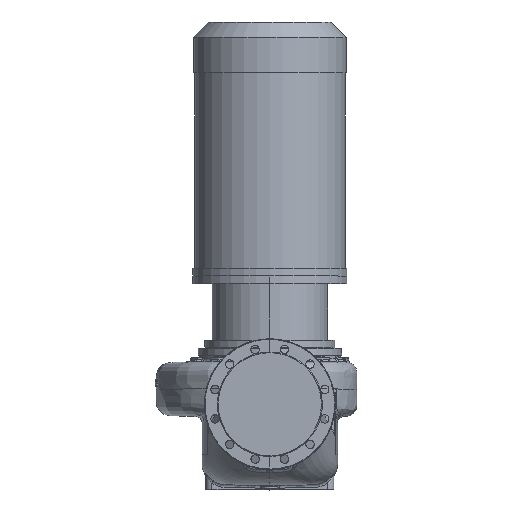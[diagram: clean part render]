
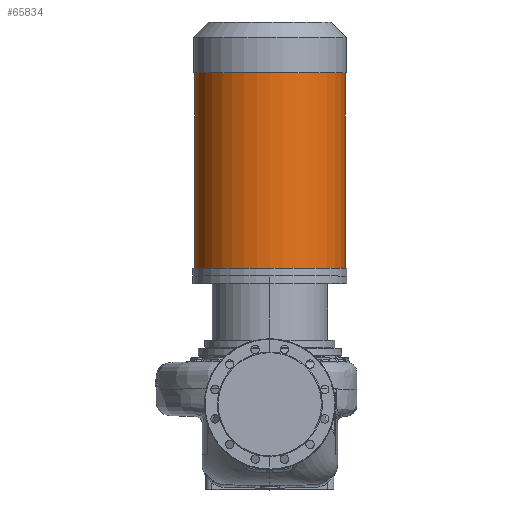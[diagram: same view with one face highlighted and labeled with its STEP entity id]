
A CAD part, top view. The second image highlights one B-rep face of the part: STEP entity #65834.
In plain terms, the highlighted cylindrical face has radius 195.5 mm (diameter 391 mm), a partial arc.
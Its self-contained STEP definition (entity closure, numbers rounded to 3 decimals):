
#675 = CARTESIAN_POINT ( 'NONE',  ( 0., 333.8, 0. ) ) ;
#1068 = ORIENTED_EDGE ( 'NONE', *, *, #53416, .T. ) ;
#2246 = LINE ( 'NONE', #26535, #21766 ) ;
#3980 = DIRECTION ( 'NONE',  ( 0., -1., 0. ) ) ;
#4889 = AXIS2_PLACEMENT_3D ( 'NONE', #32652, #14695, #7620 ) ;
#5612 = EDGE_CURVE ( 'NONE', #7847, #50379, #2246, .T. ) ;
#6789 = CARTESIAN_POINT ( 'NONE',  ( 195.5, 861.8, 0. ) ) ;
#7488 = VERTEX_POINT ( 'NONE', #52910 ) ;
#7620 = DIRECTION ( 'NONE',  ( -1., 0., 0. ) ) ;
#7847 = VERTEX_POINT ( 'NONE', #6789 ) ;
#8201 = CARTESIAN_POINT ( 'NONE',  ( -195.5, 333.8, 0. ) ) ;
#14695 = DIRECTION ( 'NONE',  ( 0., -1., 0. ) ) ;
#18534 = AXIS2_PLACEMENT_3D ( 'NONE', #675, #44222, #56796 ) ;
#21766 = VECTOR ( 'NONE', #70103, 1000. ) ;
#26535 = CARTESIAN_POINT ( 'NONE',  ( 195.5, 333.8, 0. ) ) ;
#27851 = CYLINDRICAL_SURFACE ( 'NONE', #18534, 195.5 ) ;
#32652 = CARTESIAN_POINT ( 'NONE',  ( 0., 353.8, 0. ) ) ;
#34721 = DIRECTION ( 'NONE',  ( -1., 0., 0. ) ) ;
#37983 = VECTOR ( 'NONE', #71078, 1000. ) ;
#38878 = ORIENTED_EDGE ( 'NONE', *, *, #75321, .T. ) ;
#40837 = ORIENTED_EDGE ( 'NONE', *, *, #48913, .F. ) ;
#41878 = CIRCLE ( 'NONE', #77672, 195.5 ) ;
#44222 = DIRECTION ( 'NONE',  ( 0., -1., 0. ) ) ;
#48913 = EDGE_CURVE ( 'NONE', #50379, #51260, #72968, .T. ) ;
#50379 = VERTEX_POINT ( 'NONE', #58381 ) ;
#50647 = ORIENTED_EDGE ( 'NONE', *, *, #5612, .F. ) ;
#51260 = VERTEX_POINT ( 'NONE', #58794 ) ;
#52910 = CARTESIAN_POINT ( 'NONE',  ( -195.5, 861.8, 0. ) ) ;
#53315 = CARTESIAN_POINT ( 'NONE',  ( 0., 861.8, 0. ) ) ;
#53416 = EDGE_CURVE ( 'NONE', #7847, #7488, #41878, .T. ) ;
#56796 = DIRECTION ( 'NONE',  ( -1., 0., 0. ) ) ;
#57897 = EDGE_LOOP ( 'NONE', ( #50647, #1068, #38878, #40837 ) ) ;
#58175 = FACE_OUTER_BOUND ( 'NONE', #57897, .T. ) ;
#58381 = CARTESIAN_POINT ( 'NONE',  ( 195.5, 353.8, 0. ) ) ;
#58794 = CARTESIAN_POINT ( 'NONE',  ( -195.5, 353.8, 0. ) ) ;
#65834 = ADVANCED_FACE ( 'NONE', ( #58175 ), #27851, .T. ) ;
#70103 = DIRECTION ( 'NONE',  ( 0., -1., 0. ) ) ;
#71078 = DIRECTION ( 'NONE',  ( 0., -1., 0. ) ) ;
#71154 = LINE ( 'NONE', #8201, #37983 ) ;
#72968 = CIRCLE ( 'NONE', #4889, 195.5 ) ;
#75321 = EDGE_CURVE ( 'NONE', #7488, #51260, #71154, .T. ) ;
#77672 = AXIS2_PLACEMENT_3D ( 'NONE', #53315, #3980, #34721 ) ;
